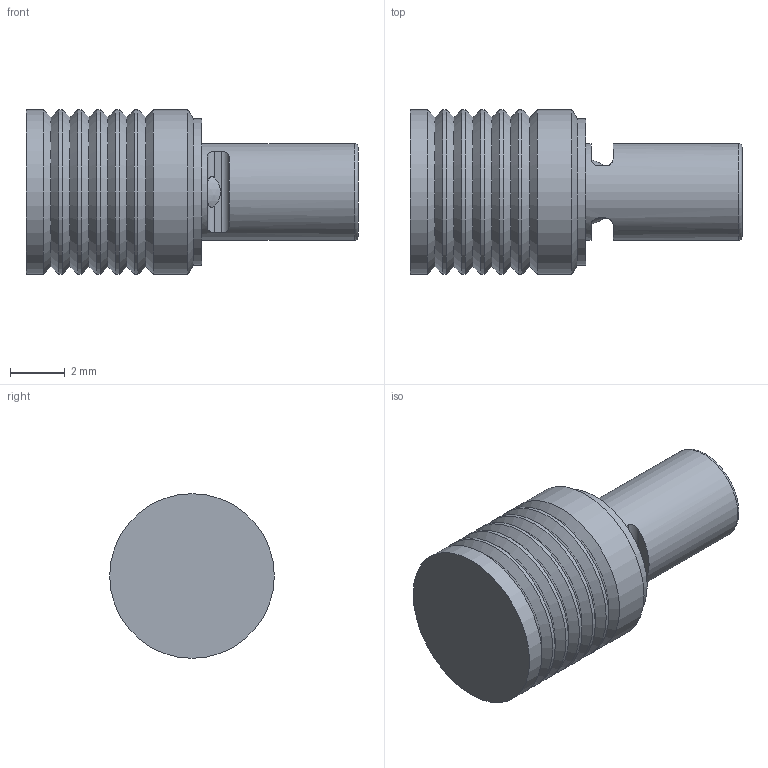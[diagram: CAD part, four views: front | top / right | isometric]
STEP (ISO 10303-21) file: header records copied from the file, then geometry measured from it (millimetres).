
FILE_DESCRIPTION(/* description */ ('LEE CHEK, 400 BAR, FORWARD'),/* implementation_level */ '2;1');
FILE_NAME(/* name */ '\\absolute\smwork\Vernon\CZFM600XXXXS.stp',/* time_stamp */ '2024-08-14T13:50:01-04:00',/* author */ ('VernonJ'),/* organization */ (''),/* preprocessor_version */ 'ST-DEVELOPER v18.1',/* originating_system */ 'Autodesk Inventor 2020',/* authorisation */ '');
FILE_SCHEMA (('AUTOMOTIVE_DESIGN { 1 0 10303 214 3 1 1 }'));
Length unit declared in the file: millimetre
Products named in the file (1): CZFM600XXXXS
Bounding box: 12.1 x 6 x 6 mm (x, y, z)
Volume: 222.9 mm3; surface area: 262.9 mm2
Topology: 1 solids, 1 shells, 38 faces, 107 edges, 73 vertices
Faces by surface type: cylinder 13, cone 13, plane 9, sphere 2, torus 1
Full cylindrical faces by diameter (mm): 3.52 x1, 5.33 x1, 6 x7
Entity records: 1431 total; most frequent: CARTESIAN_POINT 358, DIRECTION 235, ORIENTED_EDGE 214, EDGE_CURVE 107, AXIS2_PLACEMENT_3D 99, VERTEX_POINT 73, CIRCLE 60, EDGE_LOOP 40
